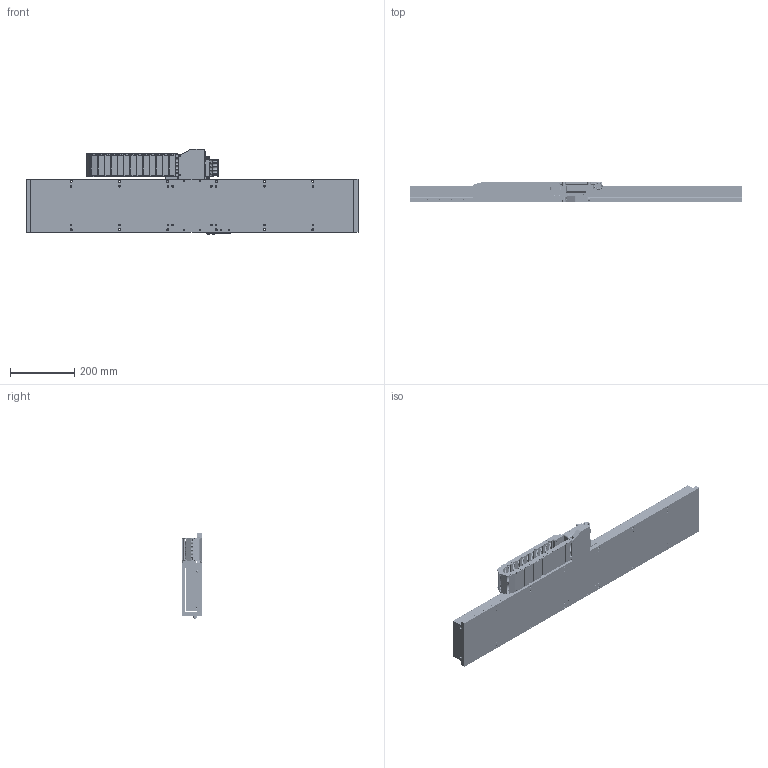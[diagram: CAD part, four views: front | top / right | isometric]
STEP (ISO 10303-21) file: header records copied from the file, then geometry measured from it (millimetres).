
FILE_DESCRIPTION (( 'STEP AP214' ), '1' );
FILE_NAME ('LM3-800-LM-EXPORT.STEP', '2024-05-06T20:39:33', ( 'lab' ), ( '' ), 'SwSTEP 2.0', 'SolidWorks 2018', '' );
FILE_SCHEMA (( 'AUTOMOTIVE_DESIGN' ));
Length unit declared in the file: millimetre
Products named in the file (26): 1000018_file_export36; 1000002_file_export12; 1000001_file_export28; 1000005_file_export26; 1000003_file_export32; 1000011_file_export21; LM3-800-LM-EXPORT; 1000007_file_export15; 1000015_file_export25; 1000013_file_export22; 1000017_file_export29; 1000010_file_export17; 1000023_file_export42; 1000004_file_export27; 1000022_file_export69; 1000016_file_export31; 1000006_file_export41; 1000021_file_export40; 1000009_file_export16; 1000019_file_export38; 1000014_file_export30; 1000020_file_export39; 1000008_file_export3; 1000012_file_export9
Assembly tree (70 placements, depth 3):
  LM3-800-LM-EXPORT
    1000007_file_export15  x4
    1000008_file_export3
    1000009_file_export16
    1000010_file_export17
    1000011_file_export21  x8
    1000012_file_export9
    1000013_file_export22  x4
    1000014_file_export30  x2
    1000015_file_export25  x2
    1000016_file_export31
    1000003_file_export32  x2
    1000005_file_export26  x2
    1000004_file_export27
    1000002_file_export12
    1000001_file_export28
    1000017_file_export29
    1000018_file_export36  x2
    1000019_file_export38
    1000018_file_export36
    1000018_file_export36
    1000020_file_export39
    1000021_file_export40  x2
    1000006_file_export41
    1000023_file_export42
      1000022_file_export69  x27
Bounding box: 1030 x 62 x 266 mm (x, y, z)
Volume: 8445071.2 mm3; surface area: 1062501.5 mm2
Topology: 152 solids, 152 shells, 4987 faces, 11964 edges, 7395 vertices
Faces by surface type: plane 2404, cylinder 1443, bspline 514, cone 436, torus 190
Entity records: 128116 total; most frequent: CARTESIAN_POINT 52551, DIRECTION 14243, ORIENTED_EDGE 13676, EDGE_CURVE 6838, AXIS2_PLACEMENT_3D 5493, VERTEX_POINT 4169, EDGE_LOOP 3395, LINE 3257
